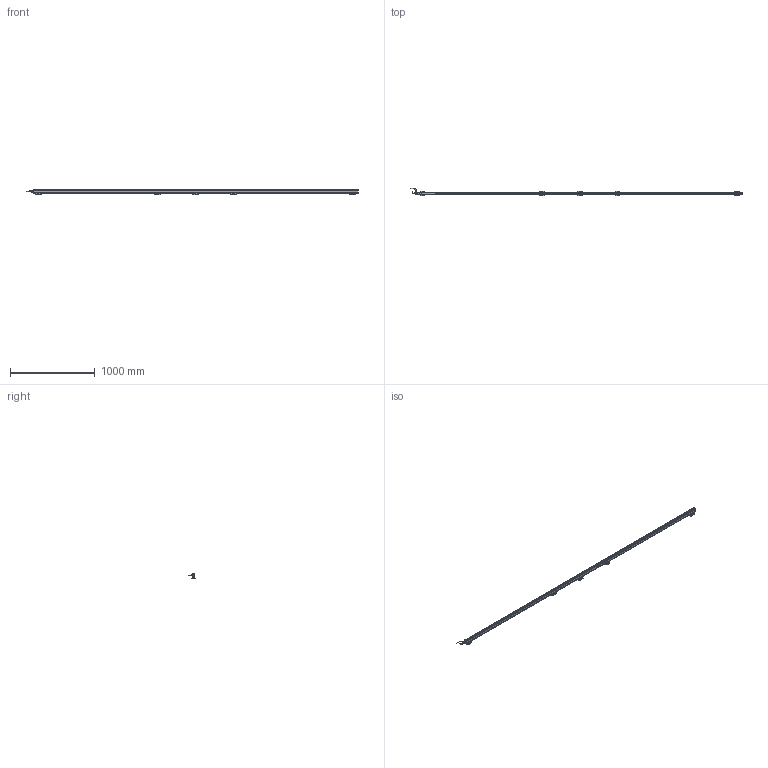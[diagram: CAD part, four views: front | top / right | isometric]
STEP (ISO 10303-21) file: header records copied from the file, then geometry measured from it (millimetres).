
FILE_DESCRIPTION(('Bauteilbeschreibung','HiCAD-Model','HiCAD-STEP-TRANSLATION','Bauteilbeschreibung'),'2;1');
FILE_NAME('PERFORMAXIQEASY_3750-3840_3D.STP','2014-03-05T13:27:45+00:00',('Konstrukteur'),('Konstrukteur Firma GmbH'),' HiCAD 2011, Step 1600.0 ','HiCAD 2011','confidential');
FILE_SCHEMA(('AUTOMOTIVE_DESIGN { 1 2 10303 214 0 1 1 1 }'));
Products named in the file (51): PERFORMAXIQEASY_3750_3840_3D; A_PERFORMAX IQ EASY 3750_3840; A_PERFORMAX IQ EASY SPEED; A_CAP DE; A_CAP CE_5; LED_2C_3MM; LED02C03MM; A519020315_CONNECTOR APPLIANCE; A_INSERT; A_CONTACTS; A_HOUSING; A_PROFILE; A_POTTING; PIN; PIN0; A532000100_BRACKET BARS_ MOUNT; A_SIDE PIECE; A0SIDE0PIECE; A_BRACKET SMALL; A_SLIDE PIECE; A5320001000BRACKET0BARS00MOUNT; A0SIDE0PIECE0; A0SIDE0PIECE1; A0BRACKET0SMALL; A0SLIDE0PIECE; A5320001000BRACKET0BARS00MOUNT0; A0SIDE0PIECE2; A0SIDE0PIECE3; A0BRACKET0SMALL0; A0SLIDE0PIECE0; A0SIDE0PIECE4; A0SIDE0PIECE5; A0BRACKET0SMALL1; A0SLIDE0PIECE1; A0SIDE0PIECE6; A0SIDE0PIECE7; A0BRACKET0SMALL2; A0SLIDE0PIECE2; A_CONNECTOR STRAIGHT; EXTRUDED SOLID_0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
Assembly tree (50 placements, depth 5):
  PERFORMAXIQEASY_3750_3840_3D
    A_PERFORMAX IQ EASY 3750_3840
      A_PERFORMAX IQ EASY SPEED
        A_CAP DE
        A_CAP CE_5
        LED_2C_3MM
        LED02C03MM
        A519020315_CONNECTOR APPLIANCE
          A_INSERT
          A_CONTACTS
          A_HOUSING
        A_PROFILE
        A_POTTING
        PIN
        PIN0
      A532000100_BRACKET BARS_ MOUNT
        A_SIDE PIECE
        A0SIDE0PIECE
        A_BRACKET SMALL
        A_SLIDE PIECE
      A5320001000BRACKET0BARS00MOUNT
        A0SIDE0PIECE0
        A0SIDE0PIECE1
        A0BRACKET0SMALL
        A0SLIDE0PIECE
      A5320001000BRACKET0BARS00MOUNT0
        A0SIDE0PIECE2
        A0SIDE0PIECE3
        A0BRACKET0SMALL0
        A0SLIDE0PIECE0
      A5320001000BRACKET0BARS00MOUNT0
        A0SIDE0PIECE4
        A0SIDE0PIECE5
        A0BRACKET0SMALL1
        A0SLIDE0PIECE1
      A5320001000BRACKET0BARS00MOUNT0
        A0SIDE0PIECE6
        A0SIDE0PIECE7
        A0BRACKET0SMALL2
        A0SLIDE0PIECE2
      A_CONNECTOR STRAIGHT
        EXTRUDED SOLID_0
        DRAAD GEBOGEN
        REVOLVED SOLID_1
        REVOLVED SOLID_3
      A_CONNECTOR ANGLED
        REVOLVED0SOLID01
        EXTRUDED0SOLID00
        C_EDGE SWEEP_0
        REVOLVED SOLID_2
        REVOLVED0SOLID03
Bounding box: 3917.89 x 84.26 x 63.13 mm (x, y, z)
Volume: 3935252 mm3; surface area: 942140.4 mm2
Topology: 45 solids, 45 shells, 4215 faces, 10820 edges, 6422 vertices
Faces by surface type: cylinder 1797, plane 1597, sphere 277, torus 252, bspline 208, cone 84
Full cylindrical faces by diameter (mm): 0.8 x10, 1 x5, 2.387 x10, 3 x23, 3.1 x1, 4.2 x2, 5 x4, 5.5 x25, 8 x2, 8.2 x1, 8.4 x2, 8.945 x1, 9 x2, 10.2 x1, 10.5 x3, 11 x1, 12 x3, 12.8 x1, 13.8 x4, 14.5 x3
Entity records: 195163 total; most frequent: CARTESIAN_POINT 45850, DIRECTION 20961, ORIENTED_EDGE 20534, EDGE_CURVE 10267, COLOUR_RGB 9750, PRESENTATION_STYLE_ASSIGNMENT 9750, OVER_RIDING_STYLED_ITEM 9710, CURVE_STYLE 9705
